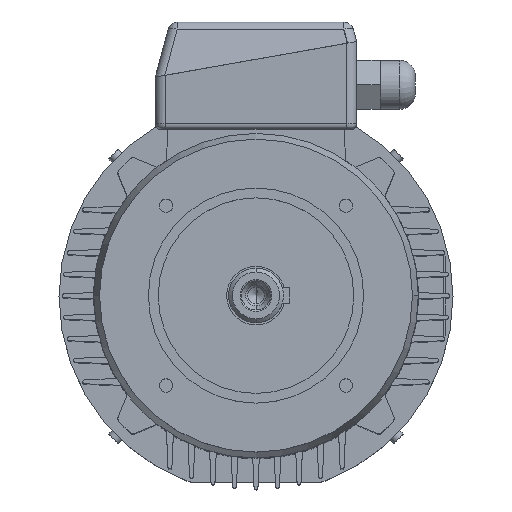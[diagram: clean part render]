
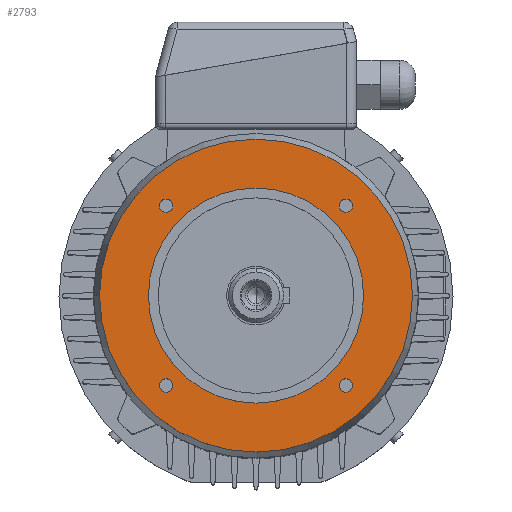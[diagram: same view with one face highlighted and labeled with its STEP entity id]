
A CAD part, top view. The second image highlights one B-rep face of the part: STEP entity #2793.
In plain terms, the highlighted planar face has unit normal (0, 0, 1).
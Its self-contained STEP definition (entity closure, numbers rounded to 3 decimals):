
#16438 = CARTESIAN_POINT ( 'NONE',  ( 0., 55., 45. ) ) ;
#16575 = CIRCLE ( 'NONE', #16581, 55. ) ;
#16581 = AXIS2_PLACEMENT_3D ( 'NONE', #16582, #16583, #16584 ) ;
#16582 = CARTESIAN_POINT ( 'NONE',  ( 0., 0., 45. ) ) ;
#16583 = DIRECTION ( 'NONE',  ( 0., 0., -1. ) ) ;
#16584 = DIRECTION ( 'NONE',  ( 0., 1., 0. ) ) ;
#462 = EDGE_LOOP ( 'NONE', ( #16008, #15103 ) ) ;
#734 = ORIENTED_EDGE ( 'NONE', *, *, #14439, .F. ) ;
#17246 = FACE_BOUND ( 'NONE', #2547, .T. ) ;
#17255 = FACE_BOUND ( 'NONE', #14855, .T. ) ;
#17256 = FACE_BOUND ( 'NONE', #2396, .T. ) ;
#17257 = FACE_BOUND ( 'NONE', #462, .T. ) ;
#17258 = FACE_BOUND ( 'NONE', #15030, .T. ) ;
#17259 = FACE_OUTER_BOUND ( 'NONE', #14645, .T. ) ;
#17260 = PLANE ( 'NONE',  #17261 ) ;
#17261 = AXIS2_PLACEMENT_3D ( 'NONE', #17262, #17263, #17264 ) ;
#17262 = CARTESIAN_POINT ( 'NONE',  ( 0., 80., 45. ) ) ;
#17263 = DIRECTION ( 'NONE',  ( 0., 0., 1. ) ) ;
#17264 = DIRECTION ( 'NONE',  ( 0., -1., 0. ) ) ;
#17678 = EDGE_CURVE ( 'NONE', #7141, #7406, #12878, .T. ) ;
#1298 = EDGE_CURVE ( 'NONE', #14603, #13613, #16152, .T. ) ;
#1349 = EDGE_CURVE ( 'NONE', #14368, #14710, #16208, .T. ) ;
#1712 = VERTEX_POINT ( 'NONE', #16438 ) ;
#18108 = ORIENTED_EDGE ( 'NONE', *, *, #17678, .F. ) ;
#1735 = ORIENTED_EDGE ( 'NONE', *, *, #1298, .F. ) ;
#1767 = CIRCLE ( 'NONE', #1768, 55. ) ;
#1768 = AXIS2_PLACEMENT_3D ( 'NONE', #1769, #1770, #1780 ) ;
#1769 = CARTESIAN_POINT ( 'NONE',  ( 0., 0., 45. ) ) ;
#1770 = DIRECTION ( 'NONE',  ( 0., 0., -1. ) ) ;
#1776 = ORIENTED_EDGE ( 'NONE', *, *, #1349, .F. ) ;
#1780 = DIRECTION ( 'NONE',  ( 0., 1., 0. ) ) ;
#1971 = EDGE_CURVE ( 'NONE', #1712, #10733, #16575, .T. ) ;
#1974 = CARTESIAN_POINT ( 'NONE',  ( 0., -80., 45. ) ) ;
#2190 = CARTESIAN_POINT ( 'NONE',  ( 0., 80., 45. ) ) ;
#18710 = ORIENTED_EDGE ( 'NONE', *, *, #7667, .F. ) ;
#2396 = EDGE_LOOP ( 'NONE', ( #1776, #734 ) ) ;
#2400 = CIRCLE ( 'NONE', #2401, 80. ) ;
#2401 = AXIS2_PLACEMENT_3D ( 'NONE', #2402, #2403, #2404 ) ;
#2402 = CARTESIAN_POINT ( 'NONE',  ( 0., 0., 45. ) ) ;
#2403 = DIRECTION ( 'NONE',  ( 0., 0., -1. ) ) ;
#2404 = DIRECTION ( 'NONE',  ( 0., 1., 0. ) ) ;
#2547 = EDGE_LOOP ( 'NONE', ( #1735, #14921 ) ) ;
#2676 = ORIENTED_EDGE ( 'NONE', *, *, #10361, .F. ) ;
#2793 = ADVANCED_FACE ( 'NONE', ( #17246, #17255, #17256, #17257, #17258, #17259 ), #17260, .T. ) ;
#3979 = CARTESIAN_POINT ( 'NONE',  ( -42.562, -45.962, 45. ) ) ;
#4083 = CIRCLE ( 'NONE', #4084, 3.4 ) ;
#4084 = AXIS2_PLACEMENT_3D ( 'NONE', #4085, #4086, #4087 ) ;
#4085 = CARTESIAN_POINT ( 'NONE',  ( -45.962, -45.962, 45. ) ) ;
#4086 = DIRECTION ( 'NONE',  ( 0., 0., 1. ) ) ;
#4087 = DIRECTION ( 'NONE',  ( 1., 0., 0. ) ) ;
#4476 = CARTESIAN_POINT ( 'NONE',  ( 0., -55., 45. ) ) ;
#5086 = CARTESIAN_POINT ( 'NONE',  ( -49.362, -45.962, 45. ) ) ;
#6804 = CARTESIAN_POINT ( 'NONE',  ( -49.362, 45.962, 45. ) ) ;
#6826 = EDGE_CURVE ( 'NONE', #10733, #1712, #1767, .T. ) ;
#7141 = VERTEX_POINT ( 'NONE', #1974 ) ;
#7406 = VERTEX_POINT ( 'NONE', #2190 ) ;
#7667 = EDGE_CURVE ( 'NONE', #7406, #7141, #2400, .T. ) ;
#8308 = CARTESIAN_POINT ( 'NONE',  ( 49.362, -45.962, 45. ) ) ;
#8525 = CIRCLE ( 'NONE', #8526, 3.4 ) ;
#8526 = AXIS2_PLACEMENT_3D ( 'NONE', #8527, #8528, #8529 ) ;
#8527 = CARTESIAN_POINT ( 'NONE',  ( 45.962, -45.962, 45. ) ) ;
#8528 = DIRECTION ( 'NONE',  ( 0., 0., 1. ) ) ;
#8529 = DIRECTION ( 'NONE',  ( 1., 0., 0. ) ) ;
#8916 = CIRCLE ( 'NONE', #8917, 3.4 ) ;
#8917 = AXIS2_PLACEMENT_3D ( 'NONE', #8918, #8919, #8920 ) ;
#8918 = CARTESIAN_POINT ( 'NONE',  ( -45.962, -45.962, 45. ) ) ;
#8919 = DIRECTION ( 'NONE',  ( 0., 0., 1. ) ) ;
#8920 = DIRECTION ( 'NONE',  ( 1., 0., 0. ) ) ;
#8975 = CARTESIAN_POINT ( 'NONE',  ( -42.562, 45.962, 45. ) ) ;
#9135 = CIRCLE ( 'NONE', #9136, 3.4 ) ;
#9136 = AXIS2_PLACEMENT_3D ( 'NONE', #9137, #9138, #9139 ) ;
#9137 = CARTESIAN_POINT ( 'NONE',  ( -45.962, 45.962, 45. ) ) ;
#9138 = DIRECTION ( 'NONE',  ( 0., 0., 1. ) ) ;
#9139 = DIRECTION ( 'NONE',  ( 1., 0., 0. ) ) ;
#9242 = CARTESIAN_POINT ( 'NONE',  ( 42.562, -45.962, 45. ) ) ;
#10122 = VERTEX_POINT ( 'NONE', #3979 ) ;
#10320 = CARTESIAN_POINT ( 'NONE',  ( 49.362, 45.962, 45. ) ) ;
#10361 = EDGE_CURVE ( 'NONE', #11433, #10122, #4083, .T. ) ;
#10598 = CIRCLE ( 'NONE', #10599, 3.4 ) ;
#10599 = AXIS2_PLACEMENT_3D ( 'NONE', #10600, #10607, #10608 ) ;
#10600 = CARTESIAN_POINT ( 'NONE',  ( 45.962, 45.962, 45. ) ) ;
#10607 = DIRECTION ( 'NONE',  ( 0., 0., 1. ) ) ;
#10608 = DIRECTION ( 'NONE',  ( 1., 0., 0. ) ) ;
#10733 = VERTEX_POINT ( 'NONE', #4476 ) ;
#10960 = CIRCLE ( 'NONE', #10961, 3.4 ) ;
#10961 = AXIS2_PLACEMENT_3D ( 'NONE', #10962, #10963, #10964 ) ;
#10962 = CARTESIAN_POINT ( 'NONE',  ( 45.962, 45.962, 45. ) ) ;
#10963 = DIRECTION ( 'NONE',  ( 0., 0., 1. ) ) ;
#10964 = DIRECTION ( 'NONE',  ( 1., 0., 0. ) ) ;
#11433 = VERTEX_POINT ( 'NONE', #5086 ) ;
#11624 = CARTESIAN_POINT ( 'NONE',  ( 42.562, 45.962, 45. ) ) ;
#12878 = CIRCLE ( 'NONE', #12879, 80. ) ;
#12879 = AXIS2_PLACEMENT_3D ( 'NONE', #12880, #12881, #12882 ) ;
#12880 = CARTESIAN_POINT ( 'NONE',  ( 0., 0., 45. ) ) ;
#12881 = DIRECTION ( 'NONE',  ( 0., 0., -1. ) ) ;
#12882 = DIRECTION ( 'NONE',  ( 0., 1., 0. ) ) ;
#13613 = VERTEX_POINT ( 'NONE', #6804 ) ;
#14368 = VERTEX_POINT ( 'NONE', #8308 ) ;
#14439 = EDGE_CURVE ( 'NONE', #14710, #14368, #8525, .T. ) ;
#14581 = EDGE_CURVE ( 'NONE', #10122, #11433, #8916, .T. ) ;
#14603 = VERTEX_POINT ( 'NONE', #8975 ) ;
#14645 = EDGE_LOOP ( 'NONE', ( #18710, #18108 ) ) ;
#14671 = EDGE_CURVE ( 'NONE', #13613, #14603, #9135, .T. ) ;
#14694 = ORIENTED_EDGE ( 'NONE', *, *, #14581, .F. ) ;
#14710 = VERTEX_POINT ( 'NONE', #9242 ) ;
#14721 = ORIENTED_EDGE ( 'NONE', *, *, #6826, .T. ) ;
#14855 = EDGE_LOOP ( 'NONE', ( #14694, #2676 ) ) ;
#14874 = ORIENTED_EDGE ( 'NONE', *, *, #1971, .T. ) ;
#14921 = ORIENTED_EDGE ( 'NONE', *, *, #14671, .F. ) ;
#15030 = EDGE_LOOP ( 'NONE', ( #14874, #14721 ) ) ;
#15084 = VERTEX_POINT ( 'NONE', #10320 ) ;
#15103 = ORIENTED_EDGE ( 'NONE', *, *, #15156, .F. ) ;
#15156 = EDGE_CURVE ( 'NONE', #16194, #15084, #10598, .T. ) ;
#15545 = EDGE_CURVE ( 'NONE', #15084, #16194, #10960, .T. ) ;
#16008 = ORIENTED_EDGE ( 'NONE', *, *, #15545, .F. ) ;
#16152 = CIRCLE ( 'NONE', #16153, 3.4 ) ;
#16153 = AXIS2_PLACEMENT_3D ( 'NONE', #16154, #16155, #16156 ) ;
#16154 = CARTESIAN_POINT ( 'NONE',  ( -45.962, 45.962, 45. ) ) ;
#16155 = DIRECTION ( 'NONE',  ( 0., 0., 1. ) ) ;
#16156 = DIRECTION ( 'NONE',  ( 1., 0., 0. ) ) ;
#16194 = VERTEX_POINT ( 'NONE', #11624 ) ;
#16208 = CIRCLE ( 'NONE', #16209, 3.4 ) ;
#16209 = AXIS2_PLACEMENT_3D ( 'NONE', #16210, #16211, #16212 ) ;
#16210 = CARTESIAN_POINT ( 'NONE',  ( 45.962, -45.962, 45. ) ) ;
#16211 = DIRECTION ( 'NONE',  ( 0., 0., 1. ) ) ;
#16212 = DIRECTION ( 'NONE',  ( 1., 0., 0. ) ) ;
